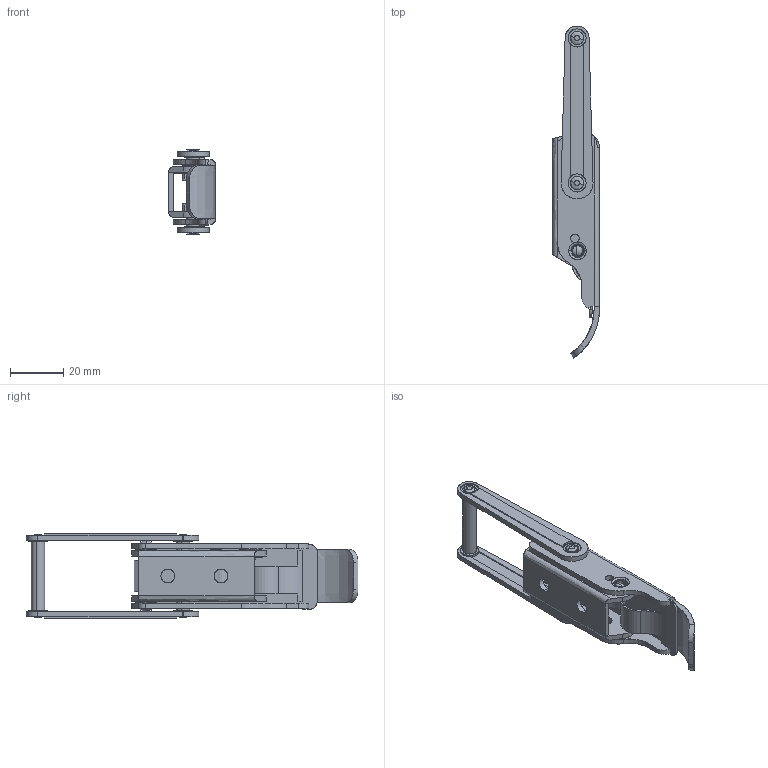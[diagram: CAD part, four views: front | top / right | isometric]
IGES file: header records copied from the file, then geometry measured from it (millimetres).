
Start section: SolidWorks IGES FILE using analytic representation for surfaces
Global section: file name: C:\Documents and Settings\lecoutey\Bureau\GP 1047\GP 1047.IGS; native system: SolidWorks 2004 by SolidWorks Corporation; preprocessor: Version 5.3; author: lecoutey; date: 050329.153935; units: millimetre
Bounding box: 17.6 x 124.76 x 31.6 mm (x, y, z)
Surface area: 18617.4 mm2 (no closed solid volume)
Topology: 0 solids, 0 shells, 314 faces, 5461 edges, 5460 vertices
Faces by surface type: bspline 162, revolution 152
